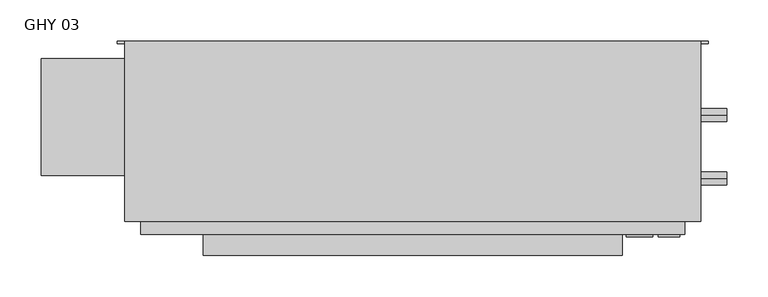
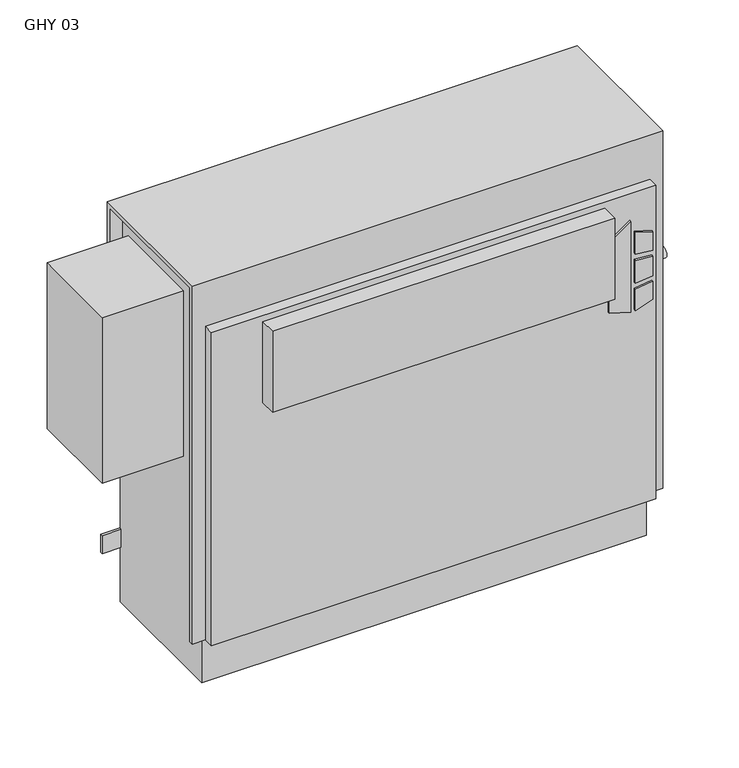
"""IFC4 building model written with IfcOpenShell, lengths in millimetres: proxy geometry, Vertical_Fan_Coil_Unit_-_GHY_-_IEC_-_2-Pipe_FS-FR_RH_2022 : GHY 03."""

from ifc_helpers import new_model, si_unit, point, frame, frame_2d, origin, place, context, project, spatial, polyline, circle_curve, trimmed, segment, composite_curve, outline, extrude, source, transform, mapped, element, save
from ifc_brep_helpers import plane_surface, revolved_surface, advanced_brep


def ghy_03_e5b2f905(model_context):
    return source(origin(), model_context, "Body", "SolidModel", [
        extrude(outline(polyline([(391.6086829, 411.2368862), (381.6606126, 443.4102728), (523.831537, 443.4102728), (500.8095309, 411.2368862), (391.6086829, 411.2368862)])), frame((0.0, 6.35, 0.0), z_axis=(0.0, 1.0, 0.0), x_axis=(0.0, 0.0, 1.0)), (0.0, 0.0, 1.0), 3.175),
        extrude(outline(polyline([(470.6079683, 450.1686058), (467.4055757, 476.25), (496.6344168, 476.25), (504.6988318, 450.1686058), (470.6079683, 450.1686058)])), frame((0.0, 6.35, 0.0), z_axis=(0.0, 1.0, 0.0), x_axis=(0.0, 0.0, 1.0)), (0.0, 0.0, 1.0), 3.175),
        extrude(outline(polyline([(418.7444414, 476.25), (415.0789404, 450.1686058), (381.6606126, 450.1686058), (390.2948498, 476.25), (418.7444414, 476.25)])), frame((0.0, 6.35, 0.0), z_axis=(0.0, 1.0, 0.0), x_axis=(0.0, 0.0, 1.0)), (0.0, 0.0, 1.0), 3.175),
        extrude(outline(polyline([(458.0596028, 476.25), (460.3414292, 450.1686058), (424.4038806, 450.1686058), (427.1451456, 476.25), (458.0596028, 476.25)])), frame((0.0, 6.35, 0.0), z_axis=(0.0, 1.0, 0.0), x_axis=(0.0, 0.0, 1.0)), (0.0, 0.0, 1.0), 3.175),
        extrude(outline(polyline([(406.4, -15.875), (-101.6, -15.875), (-101.6, 9.525), (406.4, 9.525), (406.4, -15.875)])), frame((0.0, 0.0, 428.625), z_axis=(0.0, 0.0, 1.0), x_axis=(1.0, 0.0, 0.0)), (0.0, 0.0, 1.0), 127.0),
        extrude(outline(composite_curve([segment(trimmed(circle_curve(frame_2d((77.597, 401.574)), 7.9375), [point((77.597, 393.6365))], [point((77.597, 409.5115))], False, "CARTESIAN"), True, "CONTINUOUS"), segment(trimmed(circle_curve(frame_2d((77.597, 401.574)), 7.9375), [point((77.597, 409.5115))], [point((77.597, 393.6365))], False, "CARTESIAN"), True, "CONTINUOUS")], self_intersect=False)), frame((482.6, 0.0, 0.0), z_axis=(1.0, 0.0, 0.0), x_axis=(0.0, 1.0, 0.0)), (0.0, 0.0, 1.0), 50.8),
        extrude(outline(composite_curve([segment(trimmed(circle_curve(frame_2d((154.559, 540.512)), 7.9375), [point((154.559, 532.5745))], [point((154.559, 548.4495))], False, "CARTESIAN"), True, "CONTINUOUS"), segment(trimmed(circle_curve(frame_2d((154.559, 540.512)), 7.9375), [point((154.559, 548.4495))], [point((154.559, 532.5745))], False, "CARTESIAN"), True, "CONTINUOUS")], self_intersect=False)), frame((482.6, 0.0, 0.0), z_axis=(1.0, 0.0, 0.0), x_axis=(0.0, 1.0, 0.0)), (0.0, 0.0, 1.0), 50.8),
        extrude(outline(polyline([(-298.45, 223.266), (-177.8, 223.266), (-177.8, 81.534), (-298.45, 81.534), (-298.45, 223.266)])), frame((0.0, 0.0, 327.025), z_axis=(0.0, 0.0, 1.0), x_axis=(1.0, 0.0, 0.0)), (0.0, 0.0, 1.0), 260.35),
        advanced_brep(
        [(501.65, 244.475, 635.0), (-196.85, 244.475, 635.0), (-196.85, 25.4, 635.0), (501.65, 25.4, 635.0), (-177.8, 244.475, 0.0), (482.6, 244.475, 0.0), (482.6, 34.925, 0.0), (-177.8, 34.925, 0.0), (501.65, 244.475, 558.8), (482.6, 244.475, 558.8), (482.6, 244.475, 414.3375), (511.175, 244.475, 414.3375), (511.175, 244.475, 385.7625), (482.6, 244.475, 385.7625), (482.6, 244.475, 287.3375), (511.175, 244.475, 287.3375), (511.175, 244.475, 258.7625), (482.6, 244.475, 258.7625), (482.6, 244.475, 141.2875), (511.175, 244.475, 141.2875), (511.175, 244.475, 112.7125), (482.6, 244.475, 112.7125), (-177.8, 244.475, 87.3125), (-206.375, 244.475, 87.3125), (-206.375, 244.475, 115.8875), (-177.8, 244.475, 115.8875), (-177.8, 244.475, 258.7625), (-206.375, 244.475, 258.7625), (-206.375, 244.475, 287.3375), (-177.8, 244.475, 287.3375), (-177.8, 244.475, 385.7625), (-206.375, 244.475, 385.7625), (-206.375, 244.475, 414.3375), (-177.8, 244.475, 414.3375), (-177.8, 244.475, 558.8), (-196.85, 244.475, 558.8), (500.8626, 244.475, 127.0), (489.7374, 244.475, 127.0), (500.8626, 244.475, 273.05), (489.7374, 244.475, 273.05), (-184.9374, 244.475, 273.05), (-196.0626, 244.475, 273.05), (500.8626, 244.475, 400.05), (489.7374, 244.475, 400.05), (-184.9374, 244.475, 400.05), (-196.0626, 244.475, 400.05), (-196.85, 238.125, 558.8), (-196.85, 238.125, 628.65), (-196.85, 31.75, 628.65), (-196.85, 31.75, 73.025), (-196.85, 25.4, 73.025), (482.6, 9.525, 565.15), (-177.8, 9.525, 565.15), (-177.8, 9.525, 73.025), (482.6, 9.525, 73.025), (501.65, 25.4, 73.025), (501.65, 31.75, 73.025), (501.65, 31.75, 628.65), (501.65, 238.125, 628.65), (501.65, 238.125, 558.8), (-177.8, 25.4, 73.025), (-177.8, 25.4, 565.15), (482.6, 25.4, 565.15), (482.6, 25.4, 73.025), (-177.8, 31.75, 73.025), (-177.8, 34.925, 73.025), (482.6, 34.925, 73.025), (482.6, 31.75, 73.025), (482.6, 241.3, 112.7125), (482.6, 241.3, 141.2875), (482.6, 241.3, 258.7625), (482.6, 241.3, 287.3375), (482.6, 241.3, 385.7625), (482.6, 241.3, 414.3375), (482.6, 238.125, 558.8), (482.6, 238.125, 628.65), (482.6, 31.75, 628.65), (-177.8, 31.75, 628.65), (-177.8, 238.125, 628.65), (-177.8, 238.125, 558.8), (-177.8, 241.3, 414.3375), (-177.8, 241.3, 385.7625), (-177.8, 241.3, 287.3375), (-177.8, 241.3, 258.7625), (-177.8, 241.3, 115.8875), (-177.8, 241.3, 87.3125), (511.175, 241.3, 112.7125), (511.175, 241.3, 141.2875), (489.7374, 241.3, 127.0), (500.8626, 241.3, 127.0), (511.175, 241.3, 258.7625), (511.175, 241.3, 287.3375), (489.7374, 241.3, 273.05), (500.8626, 241.3, 273.05), (511.175, 241.3, 385.7625), (511.175, 241.3, 414.3375), (489.7374, 241.3, 400.05), (500.8626, 241.3, 400.05), (-206.375, 241.3, 115.8875), (-206.375, 241.3, 87.3125), (-206.375, 241.3, 287.3375), (-206.375, 241.3, 258.7625), (-196.0626, 241.3, 273.05), (-184.9374, 241.3, 273.05), (-206.375, 241.3, 414.3375), (-206.375, 241.3, 385.7625), (-196.0626, 241.3, 400.05), (-184.9374, 241.3, 400.05)],
        [
            (0, 1),
            (1, 2),
            (2, 3),
            (3, 0),
            (4, 5),
            (5, 6),
            (6, 7),
            (7, 4),
            (0, 8),
            (8, 9),
            (9, 10),
            (10, 11),
            (11, 12),
            (12, 13),
            (13, 14),
            (14, 15),
            (15, 16),
            (16, 17),
            (17, 18),
            (18, 19),
            (19, 20),
            (20, 21),
            (21, 5),
            (4, 22),
            (22, 23),
            (23, 24),
            (24, 25),
            (25, 26),
            (26, 27),
            (27, 28),
            (28, 29),
            (29, 30),
            (30, 31),
            (31, 32),
            (32, 33),
            (33, 34),
            (34, 35),
            (35, 1),
            (36, 37, circle_curve(frame((495.3, 244.475, 127.0), z_axis=(0.0, -1.0, 0.0), x_axis=(-1.0, 0.0, 0.0)), 5.5626)),
            (37, 36, circle_curve(frame((495.3, 244.475, 127.0), z_axis=(0.0, -1.0, 0.0), x_axis=(-1.0, 0.0, 0.0)), 5.5626)),
            (38, 39, circle_curve(frame((495.3, 244.475, 273.05), z_axis=(0.0, -1.0, 0.0), x_axis=(-1.0, 0.0, 0.0)), 5.5626)),
            (39, 38, circle_curve(frame((495.3, 244.475, 273.05), z_axis=(0.0, -1.0, 0.0), x_axis=(-1.0, 0.0, 0.0)), 5.5626)),
            (40, 41, circle_curve(frame((-190.5, 244.475, 273.05), z_axis=(0.0, -1.0, 0.0), x_axis=(-1.0, 0.0, 0.0)), 5.5626)),
            (41, 40, circle_curve(frame((-190.5, 244.475, 273.05), z_axis=(0.0, -1.0, 0.0), x_axis=(-1.0, 0.0, 0.0)), 5.5626)),
            (42, 43, circle_curve(frame((495.3, 244.475, 400.05), z_axis=(0.0, -1.0, 0.0), x_axis=(-1.0, 0.0, 0.0)), 5.5626)),
            (43, 42, circle_curve(frame((495.3, 244.475, 400.05), z_axis=(0.0, -1.0, 0.0), x_axis=(-1.0, 0.0, 0.0)), 5.5626)),
            (44, 45, circle_curve(frame((-190.5, 244.475, 400.05), z_axis=(0.0, -1.0, 0.0), x_axis=(-1.0, 0.0, 0.0)), 5.5626)),
            (45, 44, circle_curve(frame((-190.5, 244.475, 400.05), z_axis=(0.0, -1.0, 0.0), x_axis=(-1.0, 0.0, 0.0)), 5.5626)),
            (35, 46),
            (46, 47),
            (47, 48),
            (48, 49),
            (49, 50),
            (50, 2),
            (51, 52),
            (52, 53),
            (53, 54),
            (54, 51),
            (3, 55),
            (55, 56),
            (56, 57),
            (57, 58),
            (58, 59),
            (59, 8),
            (50, 60),
            (60, 61),
            (61, 62),
            (62, 63),
            (63, 55),
            (51, 62),
            (61, 52),
            (53, 60),
            (49, 64),
            (64, 65),
            (65, 66),
            (66, 67),
            (67, 56),
            (63, 54),
            (6, 66),
            (65, 7),
            (21, 68),
            (68, 69),
            (69, 18),
            (17, 70),
            (70, 71),
            (71, 14),
            (13, 72),
            (72, 73),
            (73, 10),
            (9, 74),
            (74, 75),
            (75, 76),
            (76, 67),
            (64, 77),
            (77, 78),
            (78, 79),
            (79, 34),
            (33, 80),
            (80, 81),
            (81, 30),
            (29, 82),
            (82, 83),
            (83, 26),
            (25, 84),
            (84, 85),
            (85, 22),
            (74, 59),
            (58, 75),
            (76, 57),
            (48, 77),
            (79, 46),
            (78, 47),
            (68, 86),
            (86, 87),
            (87, 69),
            (88, 89, circle_curve(frame((495.3, 241.3, 127.0), z_axis=(0.0, 1.0, 0.0), x_axis=(-1.0, 0.0, 0.0)), 5.5626)),
            (89, 88, circle_curve(frame((495.3, 241.3, 127.0), z_axis=(0.0, 1.0, 0.0), x_axis=(-1.0, 0.0, 0.0)), 5.5626)),
            (90, 91),
            (91, 71),
            (70, 90),
            (92, 93, circle_curve(frame((495.3, 241.3, 273.05), z_axis=(0.0, 1.0, 0.0), x_axis=(-1.0, 0.0, 0.0)), 5.5626)),
            (93, 92, circle_curve(frame((495.3, 241.3, 273.05), z_axis=(0.0, 1.0, 0.0), x_axis=(-1.0, 0.0, 0.0)), 5.5626)),
            (94, 95),
            (95, 73),
            (72, 94),
            (96, 97, circle_curve(frame((495.3, 241.3, 400.05), z_axis=(0.0, 1.0, 0.0), x_axis=(-1.0, 0.0, 0.0)), 5.5626)),
            (97, 96, circle_curve(frame((495.3, 241.3, 400.05), z_axis=(0.0, 1.0, 0.0), x_axis=(-1.0, 0.0, 0.0)), 5.5626)),
            (98, 99),
            (99, 85),
            (84, 98),
            (82, 100),
            (100, 101),
            (101, 83),
            (102, 103, circle_curve(frame((-190.5, 241.3, 273.05), z_axis=(0.0, 1.0, 0.0), x_axis=(-1.0, 0.0, 0.0)), 5.5626)),
            (103, 102, circle_curve(frame((-190.5, 241.3, 273.05), z_axis=(0.0, 1.0, 0.0), x_axis=(-1.0, 0.0, 0.0)), 5.5626)),
            (104, 105),
            (105, 81),
            (80, 104),
            (106, 107, circle_curve(frame((-190.5, 241.3, 400.05), z_axis=(0.0, 1.0, 0.0), x_axis=(-1.0, 0.0, 0.0)), 5.5626)),
            (107, 106, circle_curve(frame((-190.5, 241.3, 400.05), z_axis=(0.0, 1.0, 0.0), x_axis=(-1.0, 0.0, 0.0)), 5.5626)),
            (87, 19),
            (86, 20),
            (16, 90),
            (91, 15),
            (12, 94),
            (95, 11),
            (24, 98),
            (99, 23),
            (101, 27),
            (100, 28),
            (32, 104),
            (105, 31),
            (88, 37),
            (36, 89),
            (92, 39),
            (38, 93),
            (102, 41),
            (40, 103),
            (96, 43),
            (42, 97),
            (106, 45),
            (44, 107),
        ],
        [
            plane_surface(frame((-196.85, 244.475, 635.0), z_axis=(0.0, 0.0, 1.0), x_axis=(-1.0, 0.0, 0.0))),
            plane_surface(frame((-196.85, 244.475, 0.0), z_axis=(0.0, 0.0, -1.0), x_axis=(1.0, 0.0, 0.0))),
            plane_surface(frame((501.65, 244.475, 635.0), z_axis=(0.0, 1.0, 0.0), x_axis=(0.0, 0.0, -1.0))),
            plane_surface(frame((-196.85, 244.475, 635.0), z_axis=(-1.0, 0.0, 0.0), x_axis=(0.0, 0.0, -1.0))),
            plane_surface(frame((-196.85, 9.525, 635.0), z_axis=(0.0, -1.0, 0.0), x_axis=(0.0, 0.0, -1.0))),
            plane_surface(frame((501.65, 9.525, 635.0), z_axis=(1.0, 0.0, 0.0), x_axis=(0.0, 0.0, -1.0))),
            plane_surface(frame((-247.65, 25.4, 635.0), z_axis=(0.0, -1.0, 0.0), x_axis=(1.0, 0.0, 0.0))),
            plane_surface(frame((-247.65, 25.4, 565.15), z_axis=(0.0, 0.0, 1.0), x_axis=(1.0, 0.0, 0.0))),
            plane_surface(frame((-196.85, 9.525, 73.025), z_axis=(0.0, 0.0, -1.0), x_axis=(1.0, 0.0, 0.0))),
            plane_surface(frame((-196.85, 34.925, 73.025), z_axis=(0.0, -1.0, 0.0), x_axis=(1.0, 0.0, 0.0))),
            plane_surface(frame((482.6, 25.4, 73.025), z_axis=(1.0, 0.0, 0.0), x_axis=(0.0, -1.0, 0.0))),
            plane_surface(frame((-177.8, 25.4, 565.15), z_axis=(-1.0, 0.0, 0.0), x_axis=(0.0, -1.0, 0.0))),
            plane_surface(frame((482.6, 244.475, 0.0), z_axis=(1.0, 0.0, 0.0), x_axis=(0.0, -1.0, 0.0))),
            plane_surface(frame((-177.8, 244.475, 73.025), z_axis=(-1.0, 0.0, 0.0), x_axis=(0.0, -1.0, 0.0))),
            plane_surface(frame((482.6, 238.125, 628.65), z_axis=(0.0, -1.0, 0.0), x_axis=(1.0, 0.0, 0.0))),
            plane_surface(frame((482.6, 238.125, 558.8), z_axis=(0.0, 0.0, -1.0), x_axis=(1.0, 0.0, 0.0))),
            plane_surface(frame((482.6, 31.75, 73.025), z_axis=(0.0, 1.0, 0.0), x_axis=(1.0, 0.0, 0.0))),
            plane_surface(frame((482.6, 31.75, 628.65), z_axis=(0.0, 0.0, -1.0), x_axis=(1.0, 0.0, 0.0))),
            plane_surface(frame((-177.8, 31.75, 628.65), z_axis=(0.0, 1.0, 0.0), x_axis=(-1.0, 0.0, 0.0))),
            plane_surface(frame((-177.8, 244.475, 558.8), z_axis=(0.0, 0.0, -1.0), x_axis=(-1.0, 0.0, 0.0))),
            plane_surface(frame((-177.8, 238.125, 558.8), z_axis=(0.0, -1.0, 0.0), x_axis=(-1.0, 0.0, 0.0))),
            plane_surface(frame((-177.8, 238.125, 628.65), z_axis=(0.0, 0.0, -1.0), x_axis=(-1.0, 0.0, 0.0))),
            plane_surface(frame((511.175, 241.3, 141.2875), z_axis=(0.0, -1.0, 0.0), x_axis=(-1.0, 0.0, 0.0))),
            plane_surface(frame((482.6, 244.475, 141.2875), z_axis=(0.0, 0.0, 1.0), x_axis=(0.0, -1.0, 0.0))),
            plane_surface(frame((511.175, 244.475, 141.2875), z_axis=(1.0, 0.0, 0.0), x_axis=(0.0, -1.0, 0.0))),
            plane_surface(frame((511.175, 244.475, 112.7125), z_axis=(0.0, 0.0, -1.0), x_axis=(0.0, -1.0, 0.0))),
            plane_surface(frame((511.175, 244.475, 258.7625), z_axis=(0.0, 0.0, -1.0), x_axis=(0.0, -1.0, 0.0))),
            plane_surface(frame((482.6, 244.475, 287.3375), z_axis=(0.0, 0.0, 1.0), x_axis=(0.0, -1.0, 0.0))),
            plane_surface(frame((511.175, 244.475, 287.3375), z_axis=(1.0, 0.0, 0.0), x_axis=(0.0, -1.0, 0.0))),
            plane_surface(frame((511.175, 244.475, 385.7625), z_axis=(0.0, 0.0, -1.0), x_axis=(0.0, -1.0, 0.0))),
            plane_surface(frame((482.6, 244.475, 414.3375), z_axis=(0.0, 0.0, 1.0), x_axis=(0.0, -1.0, 0.0))),
            plane_surface(frame((511.175, 244.475, 414.3375), z_axis=(1.0, 0.0, 0.0), x_axis=(0.0, -1.0, 0.0))),
            plane_surface(frame((-206.375, 244.475, 115.8875), z_axis=(0.0, 0.0, 1.0), x_axis=(0.0, -1.0, 0.0))),
            plane_surface(frame((-177.8, 244.475, 87.3125), z_axis=(0.0, 0.0, -1.0), x_axis=(0.0, -1.0, 0.0))),
            plane_surface(frame((-206.375, 244.475, 87.3125), z_axis=(-1.0, 0.0, 0.0), x_axis=(0.0, -1.0, 0.0))),
            plane_surface(frame((-177.8, 244.475, 258.7625), z_axis=(0.0, 0.0, -1.0), x_axis=(0.0, -1.0, 0.0))),
            plane_surface(frame((-206.375, 244.475, 258.7625), z_axis=(-1.0, 0.0, 0.0), x_axis=(0.0, -1.0, 0.0))),
            plane_surface(frame((-206.375, 244.475, 287.3375), z_axis=(0.0, 0.0, 1.0), x_axis=(0.0, -1.0, 0.0))),
            plane_surface(frame((-206.375, 244.475, 414.3375), z_axis=(0.0, 0.0, 1.0), x_axis=(0.0, -1.0, 0.0))),
            plane_surface(frame((-177.8, 244.475, 385.7625), z_axis=(0.0, 0.0, -1.0), x_axis=(0.0, -1.0, 0.0))),
            plane_surface(frame((-206.375, 244.475, 385.7625), z_axis=(-1.0, 0.0, 0.0), x_axis=(0.0, -1.0, 0.0))),
            revolved_surface(polyline([(489.73740000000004, 241.3, 127.0), (489.73740000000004, 244.475, 127.0)]), (495.3, 244.475, 127.0), (0.0, -1.0, 0.0)),
            revolved_surface(polyline([(489.73740000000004, 241.3, 273.05), (489.73740000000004, 244.475, 273.05)]), (495.3, 244.475, 273.05), (0.0, -1.0, 0.0)),
            revolved_surface(polyline([(-196.0626, 241.3, 273.05), (-196.0626, 244.475, 273.05)]), (-190.5, 244.475, 273.05), (0.0, -1.0, 0.0)),
            revolved_surface(polyline([(489.73740000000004, 241.3, 400.05), (489.73740000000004, 244.475, 400.05)]), (495.3, 244.475, 400.05), (0.0, -1.0, 0.0)),
            revolved_surface(polyline([(-196.0626, 241.3, 400.05), (-196.0626, 244.475, 400.05)]), (-190.5, 244.475, 400.05), (0.0, -1.0, 0.0)),
        ],
        [
            (0, [[1, 2, 3, 4]]),
            (1, [[5, 6, 7, 8]]),
            (2, [[-1, 9, 10, 11, 12, 13, 14, 15, 16, 17, 18, 19, 20, 21, 22, 23, -5, 24, 25, 26, 27, 28, 29, 30, 31, 32, 33, 34, 35, 36, 37, 38], [39, 40], [41, 42], [43, 44], [45, 46], [47, 48]]),
            (3, [[-2, -38, 49, 50, 51, 52, 53, 54]]),
            (4, [[55, 56, 57, 58]]),
            (5, [[-4, 59, 60, 61, 62, 63, 64, -9]]),
            (6, [[-3, -54, 65, 66, 67, 68, 69, -59]]),
            (7, [[-55, 70, -67, 71]]),
            (8, [[-57, 72, -65, -53, 73, 74, 75, 76, 77, -60, -69, 78]]),
            (9, [[-7, 79, -75, 80]]),
            (10, [[-68, -70, -58, -78]]),
            (11, [[-66, -72, -56, -71]]),
            (12, [[-6, -23, 81, 82, 83, -19, 84, 85, 86, -15, 87, 88, 89, -11, 90, 91, 92, 93, -76, -79]]),
            (13, [[-8, -80, -74, 94, 95, 96, 97, -36, 98, 99, 100, -32, 101, 102, 103, -28, 104, 105, 106, -24]]),
            (14, [[-91, 107, -63, 108]]),
            (15, [[-90, -10, -64, -107]]),
            (16, [[-93, 109, -61, -77]]),
            (17, [[-92, -108, -62, -109]]),
            (18, [[-94, -73, -52, 110]]),
            (19, [[-97, 111, -49, -37]]),
            (20, [[-96, 112, -50, -111]]),
            (21, [[-95, -110, -51, -112]]),
            (22, [[113, 114, 115, -82], [116, 117]]),
            (22, [[118, 119, -85, 120], [121, 122]]),
            (22, [[123, 124, -88, 125], [126, 127]]),
            (22, [[128, 129, -105, 130]]),
            (22, [[131, 132, 133, -102], [134, 135]]),
            (22, [[136, 137, -99, 138], [139, 140]]),
            (23, [[-115, 141, -20, -83]]),
            (24, [[-114, 142, -21, -141]]),
            (25, [[-113, -81, -22, -142]]),
            (26, [[-120, -84, -18, 143]]),
            (27, [[-119, 144, -16, -86]]),
            (28, [[-118, -143, -17, -144]]),
            (29, [[-125, -87, -14, 145]]),
            (30, [[-124, 146, -12, -89]]),
            (31, [[-123, -145, -13, -146]]),
            (32, [[-130, -104, -27, 147]]),
            (33, [[-129, 148, -25, -106]]),
            (34, [[-128, -147, -26, -148]]),
            (35, [[-133, 149, -29, -103]]),
            (36, [[-132, 150, -30, -149]]),
            (37, [[-131, -101, -31, -150]]),
            (38, [[-138, -98, -35, 151]]),
            (39, [[-137, 152, -33, -100]]),
            (40, [[-136, -151, -34, -152]]),
            (41, [[153, -39, 154, -116]]),
            (41, [[-153, -117, -154, -40]]),
            (42, [[155, -41, 156, -121]]),
            (42, [[-155, -122, -156, -42]]),
            (43, [[157, -43, 158, -134]]),
            (43, [[-157, -135, -158, -44]]),
            (44, [[159, -45, 160, -126]]),
            (44, [[-159, -127, -160, -46]]),
            (45, [[161, -47, 162, -139]]),
            (45, [[-161, -140, -162, -48]]),
        ],
    ),
    ])


if __name__ == "__main__":
    model = new_model("IFC4")
    model_context = context("Model", 3, world=origin())
    ifc_project = project(units=[si_unit("LENGTHUNIT", "METRE", prefix="MILLI")], contexts=[model_context])
    site = spatial("IfcSite", under=ifc_project)
    building = spatial("IfcBuilding", under=site)
    placement = place(None, origin())
    ghy_03_shape = ghy_03_e5b2f905(model_context)
    element("IfcBuildingElementProxy", 1, Name="Vertical_Fan_Coil_Unit_-_GHY_-_IEC_-_2-Pipe_FS-FR_RH_2022 : GHY 03", ObjectType="Vertical_Fan_Coil_Unit_-_GHY_-_IEC_-_2-Pipe_FS-FR_RH_2022 : GHY 03", at=placement, inside=building, context=model_context, shape_type="MappedRepresentation", body=[
        mapped(ghy_03_shape, transform((0.0, 0.0, 0.0), x_axis=(1.0, 0.0, 0.0), y_axis=(0.0, 1.0, 0.0), z_axis=(0.0, 0.0, 1.0))),
    ])
    save(model, "model.ifc")
